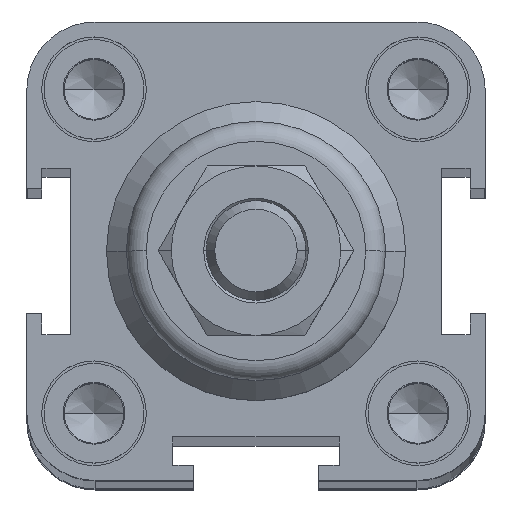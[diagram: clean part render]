
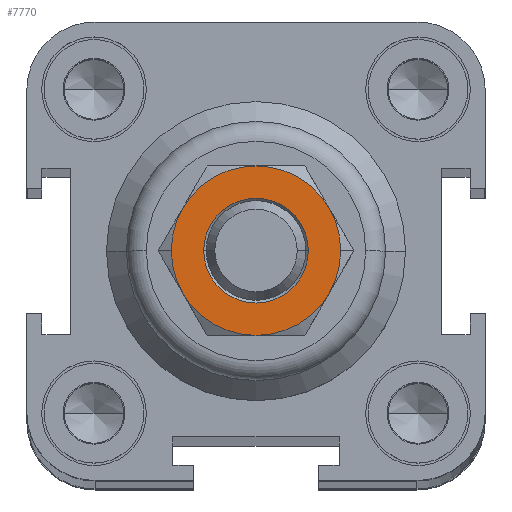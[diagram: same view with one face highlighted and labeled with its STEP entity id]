
A CAD part, top view. The second image highlights one B-rep face of the part: STEP entity #7770.
In plain terms, the highlighted planar face has unit normal (0, 0, 1) as drawn and (0, 0, -1) by its records, which use the part's own axes.
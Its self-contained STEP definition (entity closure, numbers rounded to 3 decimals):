
#7341=CARTESIAN_POINT('',(8.5,0.,0.0));
#7342=VERTEX_POINT('',#7341);
#7351=CARTESIAN_POINT('',(7.361,4.25,0.));
#7352=VERTEX_POINT('',#7351);
#7353=CARTESIAN_POINT('',(0.0,0.0,0.0));
#7354=DIRECTION('',(0.0,0.0,-1.0));
#7355=DIRECTION('',(1.0,0.0,0.0));
#7356=AXIS2_PLACEMENT_3D('',#7353,#7354,#7355);
#7357=CIRCLE('',#7356,8.5);
#7358=EDGE_CURVE('',#7352,#7342,#7357,.T.);
#7383=CARTESIAN_POINT('',(-8.5,0.,0.0));
#7384=VERTEX_POINT('',#7383);
#7391=CARTESIAN_POINT('',(-7.361,4.25,0.));
#7392=VERTEX_POINT('',#7391);
#7406=CARTESIAN_POINT('',(0.0,0.0,0.0));
#7407=DIRECTION('',(0.0,0.0,-1.0));
#7408=DIRECTION('',(1.0,0.0,0.0));
#7409=AXIS2_PLACEMENT_3D('',#7406,#7407,#7408);
#7410=CIRCLE('',#7409,8.5);
#7411=EDGE_CURVE('',#7384,#7392,#7410,.T.);
#7617=CARTESIAN_POINT('',(5.25,0.,0.0));
#7618=VERTEX_POINT('',#7617);
#7632=CARTESIAN_POINT('',(-5.25,0.,0.0));
#7633=VERTEX_POINT('',#7632);
#7640=CARTESIAN_POINT('',(0.0,0.0,0.0));
#7641=DIRECTION('',(0.0,0.0,-1.0));
#7642=DIRECTION('',(1.0,0.0,0.0));
#7643=AXIS2_PLACEMENT_3D('',#7640,#7641,#7642);
#7644=CIRCLE('',#7643,5.25);
#7645=EDGE_CURVE('',#7633,#7618,#7644,.T.);
#7656=CARTESIAN_POINT('',(0.0,0.0,0.0));
#7657=DIRECTION('',(0.0,0.0,-1.0));
#7658=DIRECTION('',(1.0,0.0,0.0));
#7659=AXIS2_PLACEMENT_3D('',#7656,#7657,#7658);
#7660=CIRCLE('',#7659,5.25);
#7661=EDGE_CURVE('',#7618,#7633,#7660,.T.);
#7707=CARTESIAN_POINT('',(0.,0.,0.0));
#7708=DIRECTION('',(0.0,0.0,1.0));
#7709=DIRECTION('',(1.0,0.0,0.0));
#7710=AXIS2_PLACEMENT_3D('',#7707,#7708,#7709);
#7711=PLANE('',#7710);
#7712=CARTESIAN_POINT('',(0.,8.5,0.));
#7713=VERTEX_POINT('',#7712);
#7714=CARTESIAN_POINT('',(0.0,0.0,0.0));
#7715=DIRECTION('',(0.0,0.0,-1.0));
#7716=DIRECTION('',(1.0,0.0,0.0));
#7717=AXIS2_PLACEMENT_3D('',#7714,#7715,#7716);
#7718=CIRCLE('',#7717,8.5);
#7719=EDGE_CURVE('',#7392,#7713,#7718,.T.);
#7720=ORIENTED_EDGE('',*,*,#7719,.T.);
#7721=CARTESIAN_POINT('',(0.0,0.0,0.0));
#7722=DIRECTION('',(0.0,0.0,-1.0));
#7723=DIRECTION('',(1.0,0.0,0.0));
#7724=AXIS2_PLACEMENT_3D('',#7721,#7722,#7723);
#7725=CIRCLE('',#7724,8.5);
#7726=EDGE_CURVE('',#7713,#7352,#7725,.T.);
#7727=ORIENTED_EDGE('',*,*,#7726,.T.);
#7728=ORIENTED_EDGE('',*,*,#7358,.T.);
#7729=CARTESIAN_POINT('',(7.361,-4.25,0.));
#7730=VERTEX_POINT('',#7729);
#7731=CARTESIAN_POINT('',(0.0,0.0,0.0));
#7732=DIRECTION('',(0.0,0.0,-1.0));
#7733=DIRECTION('',(1.0,0.0,0.0));
#7734=AXIS2_PLACEMENT_3D('',#7731,#7732,#7733);
#7735=CIRCLE('',#7734,8.5);
#7736=EDGE_CURVE('',#7342,#7730,#7735,.T.);
#7737=ORIENTED_EDGE('',*,*,#7736,.T.);
#7738=CARTESIAN_POINT('',(0.,-8.5,0.));
#7739=VERTEX_POINT('',#7738);
#7740=CARTESIAN_POINT('',(0.0,0.0,0.0));
#7741=DIRECTION('',(0.0,0.0,-1.0));
#7742=DIRECTION('',(1.0,0.0,0.0));
#7743=AXIS2_PLACEMENT_3D('',#7740,#7741,#7742);
#7744=CIRCLE('',#7743,8.5);
#7745=EDGE_CURVE('',#7730,#7739,#7744,.T.);
#7746=ORIENTED_EDGE('',*,*,#7745,.T.);
#7747=CARTESIAN_POINT('',(-7.361,-4.25,0.));
#7748=VERTEX_POINT('',#7747);
#7749=CARTESIAN_POINT('',(0.0,0.0,0.0));
#7750=DIRECTION('',(0.0,0.0,-1.0));
#7751=DIRECTION('',(1.0,0.0,0.0));
#7752=AXIS2_PLACEMENT_3D('',#7749,#7750,#7751);
#7753=CIRCLE('',#7752,8.5);
#7754=EDGE_CURVE('',#7739,#7748,#7753,.T.);
#7755=ORIENTED_EDGE('',*,*,#7754,.T.);
#7756=CARTESIAN_POINT('',(0.0,0.0,0.0));
#7757=DIRECTION('',(0.0,0.0,-1.0));
#7758=DIRECTION('',(1.0,0.0,0.0));
#7759=AXIS2_PLACEMENT_3D('',#7756,#7757,#7758);
#7760=CIRCLE('',#7759,8.5);
#7761=EDGE_CURVE('',#7748,#7384,#7760,.T.);
#7762=ORIENTED_EDGE('',*,*,#7761,.T.);
#7763=ORIENTED_EDGE('',*,*,#7411,.T.);
#7764=EDGE_LOOP('',(#7720,#7727,#7728,#7737,#7746,#7755,#7762,#7763));
#7765=FACE_OUTER_BOUND('',#7764,.T.);
#7766=ORIENTED_EDGE('',*,*,#7645,.F.);
#7767=ORIENTED_EDGE('',*,*,#7661,.F.);
#7768=EDGE_LOOP('',(#7766,#7767));
#7769=FACE_BOUND('',#7768,.T.);
#7770=ADVANCED_FACE('',(#7765,#7769),#7711,.F.);
